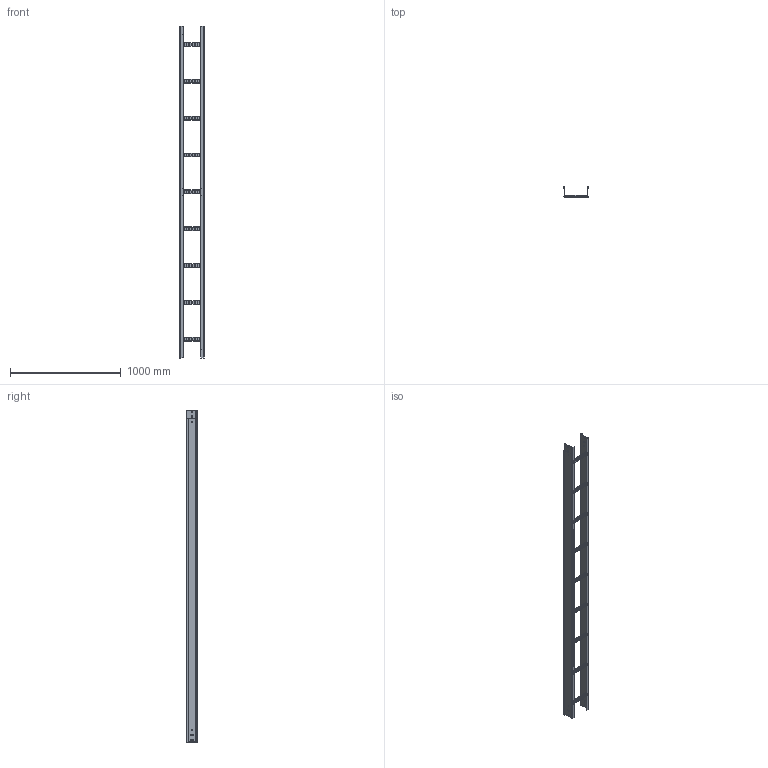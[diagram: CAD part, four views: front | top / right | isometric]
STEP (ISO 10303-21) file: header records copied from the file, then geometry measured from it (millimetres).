
FILE_DESCRIPTION (( 'STEP AP203' ), '1' );
FILE_NAME ('200X100x1,5.step', '2023-08-01T07:29:18', ( '' ), ( '' ), 'SwSTEP 2.0', 'SolidWorks 2022', '' );
FILE_SCHEMA (( 'CONFIG_CONTROL_DESIGN' ));
Length unit declared in the file: millimetre
Products named in the file (3): Montante FER GS_100x1,5; 200X100x1,5; Travesaño RAT35 FER GS_200
Assembly tree (11 placements, depth 2):
  200X100x1,5
    Montante FER GS_100x1,5  x2
    Travesaño RAT35 FER GS_200  x9
Bounding box: 232 x 101.5 x 3000 mm (x, y, z)
Volume: 179552.7 mm3; surface area: 2099673.2 mm2
Topology: 9 solids, 13 shells, 1026 faces, 2550 edges, 1584 vertices
Faces by surface type: plane 580, cylinder 298, torus 144, bspline 4
Entity records: 6785 total; most frequent: CARTESIAN_POINT 1450, DIRECTION 1055, ORIENTED_EDGE 966, EDGE_CURVE 491, AXIS2_PLACEMENT_3D 385, VERTEX_POINT 316, VECTOR 285, LINE 285
